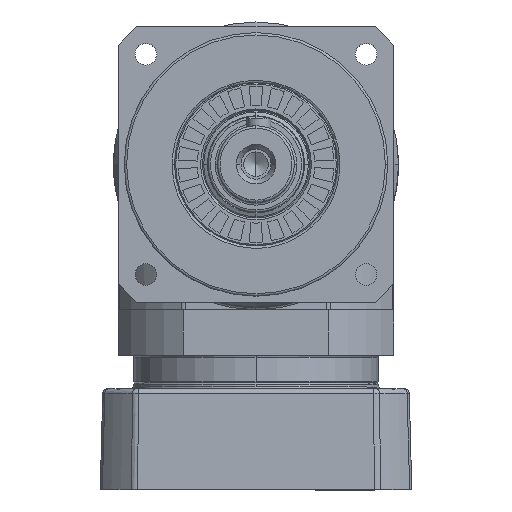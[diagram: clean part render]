
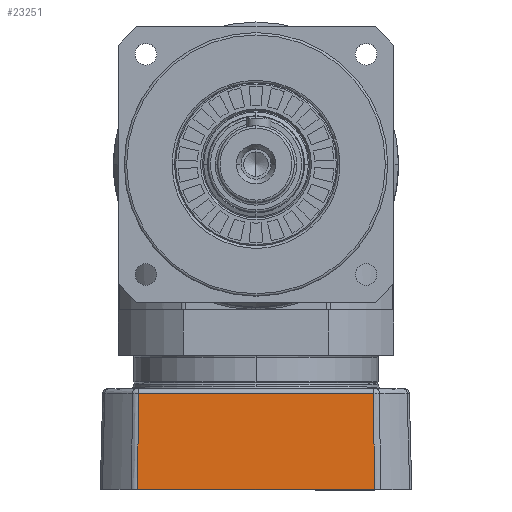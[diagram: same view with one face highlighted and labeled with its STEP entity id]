
A CAD part, top view. The second image highlights one B-rep face of the part: STEP entity #23251.
In plain terms, the highlighted planar face has unit normal (0, 0.026, 1).
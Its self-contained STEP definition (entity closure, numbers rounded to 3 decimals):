
#3413 = CARTESIAN_POINT ( 'NONE',  ( 24.895, -88.568, 104.297 ) ) ;
#13500 = VECTOR ( 'NONE', #42249, 1000. ) ;
#13550 = VERTEX_POINT ( 'NONE', #61119 ) ;
#13600 = VECTOR ( 'NONE', #20651, 1000. ) ;
#15922 = LINE ( 'NONE', #44351, #16998 ) ;
#16998 = VECTOR ( 'NONE', #61346, 1000. ) ;
#20651 = DIRECTION ( 'NONE',  ( 1., 0., 0. ) ) ;
#23251 = ADVANCED_FACE ( 'NONE', ( #23981 ), #67608, .F. ) ;
#23794 = ORIENTED_EDGE ( 'NONE', *, *, #61323, .F. ) ;
#23981 = FACE_OUTER_BOUND ( 'NONE', #75305, .T. ) ;
#24144 = AXIS2_PLACEMENT_3D ( 'NONE', #97250, #90655, #29125 ) ;
#26421 = EDGE_CURVE ( 'NONE', #93233, #13550, #27802, .T. ) ;
#27802 = LINE ( 'NONE', #69078, #69718 ) ;
#29125 = DIRECTION ( 'NONE',  ( 0., 1., -0.026 ) ) ;
#33947 = EDGE_CURVE ( 'NONE', #13550, #53288, #15922, .T. ) ;
#34231 = ORIENTED_EDGE ( 'NONE', *, *, #33947, .F. ) ;
#42249 = DIRECTION ( 'NONE',  ( 0.009, -1., 0.026 ) ) ;
#44351 = CARTESIAN_POINT ( 'NONE',  ( -73.551, -128.62, 105.346 ) ) ;
#44562 = CARTESIAN_POINT ( 'NONE',  ( 26.664, -88.568, 104.297 ) ) ;
#45859 = CARTESIAN_POINT ( 'NONE',  ( -73.178, -88.568, 104.297 ) ) ;
#48762 = LINE ( 'NONE', #3413, #13500 ) ;
#53288 = VERTEX_POINT ( 'NONE', #45859 ) ;
#61119 = CARTESIAN_POINT ( 'NONE',  ( -73.551, -128.62, 105.346 ) ) ;
#61323 = EDGE_CURVE ( 'NONE', #53288, #75213, #76103, .T. ) ;
#61346 = DIRECTION ( 'NONE',  ( 0.009, 1., -0.026 ) ) ;
#65590 = ORIENTED_EDGE ( 'NONE', *, *, #69035, .F. ) ;
#67608 = PLANE ( 'NONE',  #24144 ) ;
#69035 = EDGE_CURVE ( 'NONE', #75213, #93233, #48762, .T. ) ;
#69078 = CARTESIAN_POINT ( 'NONE',  ( 26.664, -128.62, 105.346 ) ) ;
#69718 = VECTOR ( 'NONE', #97376, 1000. ) ;
#70907 = CARTESIAN_POINT ( 'NONE',  ( 24.895, -88.568, 104.297 ) ) ;
#75213 = VERTEX_POINT ( 'NONE', #70907 ) ;
#75305 = EDGE_LOOP ( 'NONE', ( #23794, #34231, #97693, #65590 ) ) ;
#76103 = LINE ( 'NONE', #44562, #13600 ) ;
#82849 = CARTESIAN_POINT ( 'NONE',  ( 25.268, -128.62, 105.346 ) ) ;
#90655 = DIRECTION ( 'NONE',  ( 0., -0.026, -1. ) ) ;
#93233 = VERTEX_POINT ( 'NONE', #82849 ) ;
#97250 = CARTESIAN_POINT ( 'NONE',  ( 26.664, -128.62, 105.346 ) ) ;
#97376 = DIRECTION ( 'NONE',  ( -1., 0., 0. ) ) ;
#97693 = ORIENTED_EDGE ( 'NONE', *, *, #26421, .F. ) ;
